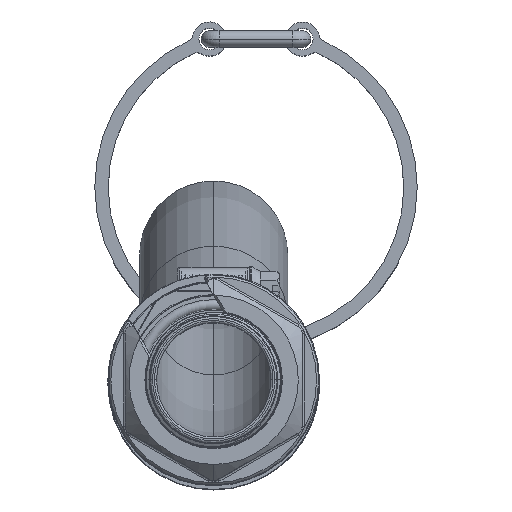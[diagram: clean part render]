
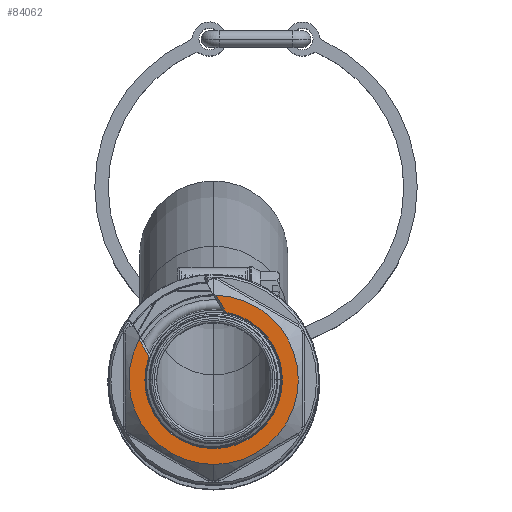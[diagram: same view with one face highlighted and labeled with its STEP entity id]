
A CAD part, top view. The second image highlights one B-rep face of the part: STEP entity #84062.
In plain terms, the highlighted planar face has unit normal (0, 0, 1) as drawn and (-1, 0, 0) by its records, which use the part's own axes.
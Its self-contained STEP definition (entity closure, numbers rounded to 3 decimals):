
#2040 = VERTEX_POINT ( 'NONE', #25855 ) ;
#6318 = PLANE ( 'NONE',  #56884 ) ;
#7562 = ORIENTED_EDGE ( 'NONE', *, *, #84883, .F. ) ;
#7803 = VECTOR ( 'NONE', #8846, 1000. ) ;
#8846 = DIRECTION ( 'NONE',  ( 0., -0.866, 0.5 ) ) ;
#14799 = CARTESIAN_POINT ( 'NONE',  ( -12., 15.991, 2.892 ) ) ;
#18120 = CIRCLE ( 'NONE', #23082, 16.25 ) ;
#19933 = CIRCLE ( 'NONE', #75969, 20. ) ;
#20568 = DIRECTION ( 'NONE',  ( 0., -1., 0. ) ) ;
#22105 = CARTESIAN_POINT ( 'NONE',  ( -12., 0., 0. ) ) ;
#23082 = AXIS2_PLACEMENT_3D ( 'NONE', #40106, #86590, #80371 ) ;
#23754 = EDGE_CURVE ( 'NONE', #61312, #2040, #19933, .T. ) ;
#25855 = CARTESIAN_POINT ( 'NONE',  ( -12., 9.492, -17.604 ) ) ;
#26353 = CARTESIAN_POINT ( 'NONE',  ( -12., 16.343, 2.689 ) ) ;
#27692 = CARTESIAN_POINT ( 'NONE',  ( -12., -16.25, 0. ) ) ;
#27991 = VERTEX_POINT ( 'NONE', #14799 ) ;
#28546 = DIRECTION ( 'NONE',  ( 1., 0., 0. ) ) ;
#31970 = LINE ( 'NONE', #94872, #63478 ) ;
#35012 = DIRECTION ( 'NONE',  ( 0., 0.866, -0.5 ) ) ;
#40106 = CARTESIAN_POINT ( 'NONE',  ( -12., 0., 0. ) ) ;
#46831 = DIRECTION ( 'NONE',  ( 0., 1., 0. ) ) ;
#48707 = AXIS2_PLACEMENT_3D ( 'NONE', #61981, #28546, #99189 ) ;
#50076 = ORIENTED_EDGE ( 'NONE', *, *, #88131, .T. ) ;
#51662 = VERTEX_POINT ( 'NONE', #27692 ) ;
#53502 = DIRECTION ( 'NONE',  ( 1., 0., 0. ) ) ;
#56884 = AXIS2_PLACEMENT_3D ( 'NONE', #99172, #100692, #75450 ) ;
#59888 = EDGE_LOOP ( 'NONE', ( #7562, #50076, #69276, #96948, #64295, #69076 ) ) ;
#60878 = EDGE_CURVE ( 'NONE', #27991, #51662, #18120, .T. ) ;
#61312 = VERTEX_POINT ( 'NONE', #77208 ) ;
#61981 = CARTESIAN_POINT ( 'NONE',  ( -12., 0., 0. ) ) ;
#63478 = VECTOR ( 'NONE', #35012, 1000. ) ;
#64295 = ORIENTED_EDGE ( 'NONE', *, *, #81772, .T. ) ;
#66890 = CIRCLE ( 'NONE', #91584, 16.25 ) ;
#68471 = CIRCLE ( 'NONE', #48707, 20. ) ;
#68693 = FACE_OUTER_BOUND ( 'NONE', #59888, .T. ) ;
#69076 = ORIENTED_EDGE ( 'NONE', *, *, #23754, .F. ) ;
#69276 = ORIENTED_EDGE ( 'NONE', *, *, #60878, .T. ) ;
#70068 = DIRECTION ( 'NONE',  ( 1., 0., 0. ) ) ;
#71017 = CARTESIAN_POINT ( 'NONE',  ( -12., 5.491, -15.294 ) ) ;
#75450 = DIRECTION ( 'NONE',  ( 0., -1., 0. ) ) ;
#75969 = AXIS2_PLACEMENT_3D ( 'NONE', #76848, #70068, #46831 ) ;
#76848 = CARTESIAN_POINT ( 'NONE',  ( -12., 0., 0. ) ) ;
#77208 = CARTESIAN_POINT ( 'NONE',  ( -12., -20., 0. ) ) ;
#78517 = CARTESIAN_POINT ( 'NONE',  ( -12., 19.992, 0.582 ) ) ;
#80371 = DIRECTION ( 'NONE',  ( 0., -1., 0. ) ) ;
#81772 = EDGE_CURVE ( 'NONE', #82128, #2040, #31970, .T. ) ;
#81928 = EDGE_CURVE ( 'NONE', #51662, #82128, #66890, .T. ) ;
#82128 = VERTEX_POINT ( 'NONE', #71017 ) ;
#84062 = ADVANCED_FACE ( 'NONE', ( #68693 ), #6318, .T. ) ;
#84883 = EDGE_CURVE ( 'NONE', #100495, #61312, #68471, .T. ) ;
#86590 = DIRECTION ( 'NONE',  ( 1., 0., 0. ) ) ;
#88131 = EDGE_CURVE ( 'NONE', #100495, #27991, #96990, .T. ) ;
#91584 = AXIS2_PLACEMENT_3D ( 'NONE', #22105, #53502, #20568 ) ;
#94872 = CARTESIAN_POINT ( 'NONE',  ( -12., 9.75, -17.754 ) ) ;
#96948 = ORIENTED_EDGE ( 'NONE', *, *, #81928, .T. ) ;
#96990 = LINE ( 'NONE', #26353, #7803 ) ;
#99172 = CARTESIAN_POINT ( 'NONE',  ( -12., 15.25, 0. ) ) ;
#99189 = DIRECTION ( 'NONE',  ( 0., 1., 0. ) ) ;
#100495 = VERTEX_POINT ( 'NONE', #78517 ) ;
#100692 = DIRECTION ( 'NONE',  ( -1., 0., 0. ) ) ;
